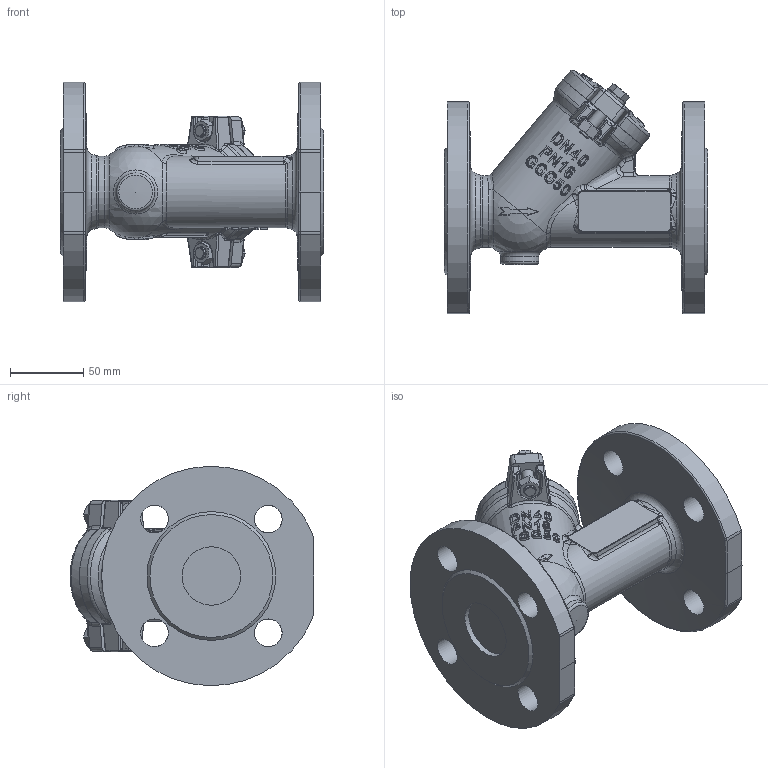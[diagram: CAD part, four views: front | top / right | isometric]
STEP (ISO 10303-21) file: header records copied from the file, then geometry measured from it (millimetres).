
FILE_DESCRIPTION (( 'STEP AP214' ), '1' );
FILE_NAME ('DN40.STEP', '2026-09-14T12:12:46', ( '' ), ( '' ), 'SwSTEP 2.0', 'SolidWorks 2024', '' );
FILE_SCHEMA (( 'AUTOMOTIVE_DESIGN' ));
Length unit declared in the file: millimetre
Products named in the file (1): DN40
Bounding box: 180 x 166.47 x 149.94 mm (x, y, z)
Volume: 1101624.4 mm3; surface area: 136738.7 mm2
Topology: 3 solids, 6 shells, 957 faces, 2406 edges, 1515 vertices
Faces by surface type: bspline 542, cylinder 155, plane 143, cone 51, sphere 39, torus 27
Full cylindrical faces by diameter (mm): 8 x4, 9 x2, 16 x2, 19 x8, 26 x1, 40 x2, 49 x1, 70.6 x1
Entity records: 61194 total; most frequent: CARTESIAN_POINT 33830, ORIENTED_EDGE 4654, EDGE_CURVE 2327, DIRECTION 1985, B_SPLINE_CURVE_WITH_KNOTS 1514, VERTEX_POINT 1486, EDGE_LOOP 1083, FACE_OUTER_BOUND 985
